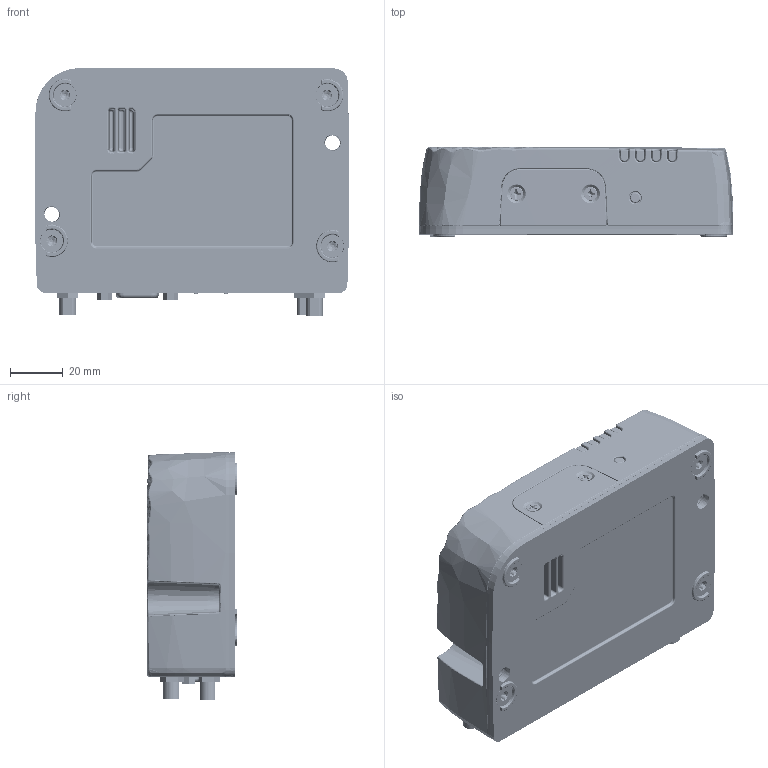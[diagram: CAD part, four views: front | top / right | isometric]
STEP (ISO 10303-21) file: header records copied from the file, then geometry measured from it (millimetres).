
FILE_DESCRIPTION((''),'2;1');
FILE_NAME('2102957_ASM','2015-11-03T',('smar'),('Sierra Wireless'),'PRO/ENGINEER BY PARAMETRIC TECHNOLOGY CORPORATION, 2013130','PRO/ENGINEER BY PARAMETRIC TECHNOLOGY CORPORATION, 2013130','');
FILE_SCHEMA(('AUTOMOTIVE_DESIGN { 1 0 10303 214 1 1 1 1 }'));
Products named in the file (37): MACAN_SKEL; 1304074; 1304077_MOLEX; 1304077_ASM; SEAL_FORM3; 1304088; CA720-110214-105G; 2000345_WASHER; 2000345_NUT; 1304091; A007209S_7; 072-S-318_2; 072-L-318_2; 007209P_HS_2; DR-SHELL-S_2; 54-50-12_1; RC_5; TFX_1; D10009S12401N_ASM_35_ASM; D-SUB_D130D_ASM; 90576A102_ASM; M3_LOCKNUT_ASM; RJ45_UDE; MOLEX_430450421; 1710731; 5200124; 1600739_ASM; 1304090; SIM_DOOR-ASSEMBLY_ASM; 1600636_ASM; 1500180; 1304075; 1304076; BOTTOM_COVER_ASM; 1550134; 1500291; 2102957_ASM
Assembly tree (62 placements, depth 5):
  2102957_ASM
    MACAN_SKEL
    1304074
    1304077_ASM
      1304077_MOLEX
    SEAL_FORM3
    1304088
    CA720-110214-105G  x3
    2000345_WASHER  x3
    2000345_NUT  x3
    1304091
    1600739_ASM
      D-SUB_D130D_ASM
        D10009S12401N_ASM_35_ASM
          A007209S_7
          072-S-318_2  x4
          072-L-318_2  x5
          007209P_HS_2
          DR-SHELL-S_2
          54-50-12_1  x2
          RC_5  x2
          TFX_1
      M3_LOCKNUT_ASM  x2
        90576A102_ASM
      RJ45_UDE
      MOLEX_430450421
      1710731
      5200124
    SIM_DOOR-ASSEMBLY_ASM
      1304090
    1600636_ASM
      D-SUB_D130D_ASM
        D10009S12401N_ASM_35_ASM
          A007209S_7
          072-S-318_2  x4
          072-L-318_2  x5
          007209P_HS_2
          DR-SHELL-S_2
          54-50-12_1  x2
          RC_5  x2
          TFX_1
      RJ45_UDE
      MOLEX_430450421
      1710731
      5200124
    1500180  x2
    BOTTOM_COVER_ASM
      1304075
      1304076
    1550134  x4
    1500291  x2
Bounding box: 118.91 x 34.2 x 93.59 mm (x, y, z)
Volume: 104718.1 mm3; surface area: 127537.4 mm2
Topology: 155 solids, 155 shells, 14949 faces, 39668 edges, 25072 vertices
Faces by surface type: plane 9158, cylinder 2864, bspline 1478, cone 660, torus 381, extrusion 247, sphere 121, revolution 40
Entity records: 454412 total; most frequent: CARTESIAN_POINT 162781, ORIENTED_EDGE 46294, DIRECTION 37991, PRESENTATION_STYLE_ASSIGNMENT 23815, STYLED_ITEM 23262, CURVE_STYLE 23147, EDGE_CURVE 23147, VECTOR 14755
